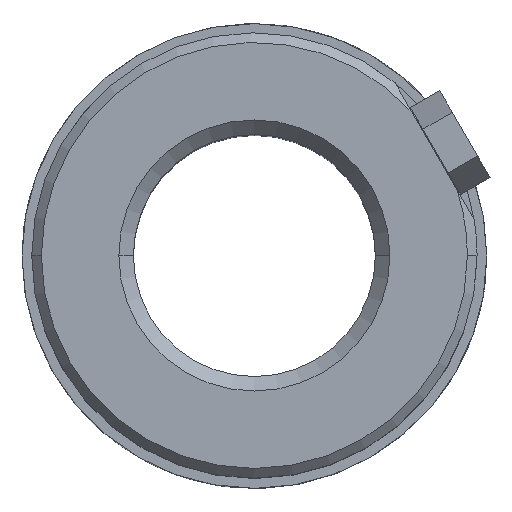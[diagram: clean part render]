
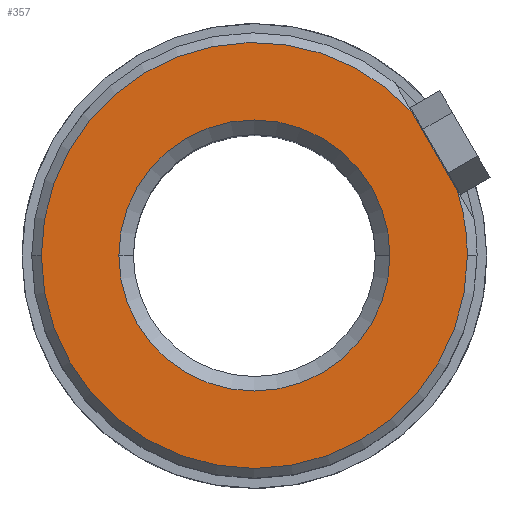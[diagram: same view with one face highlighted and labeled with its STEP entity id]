
A CAD part, top view. The second image highlights one B-rep face of the part: STEP entity #357.
In plain terms, the highlighted planar face has unit normal (0, 0, 1).
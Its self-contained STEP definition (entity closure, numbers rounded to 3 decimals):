
#230=CARTESIAN_POINT('Axis2P3D Location',(0.,0.,36.)) ;
#234=CARTESIAN_POINT('Vertex',(14.,0.,36.)) ;
#236=CARTESIAN_POINT('Vertex',(-14.,0.,36.)) ;
#309=CARTESIAN_POINT('Axis2P3D Location',(14.,0.,36.)) ;
#314=CARTESIAN_POINT('Line Origine',(18.62,10.75,36.)) ;
#318=CARTESIAN_POINT('Vertex',(20.951,6.711,36.)) ;
#320=CARTESIAN_POINT('Vertex',(16.288,14.789,36.)) ;
#323=CARTESIAN_POINT('Axis2P3D Location',(0.,0.,36.)) ;
#327=CARTESIAN_POINT('Vertex',(-22.,0.,36.)) ;
#330=CARTESIAN_POINT('Axis2P3D Location',(0.,0.,36.)) ;
#334=CARTESIAN_POINT('Vertex',(22.,0.,36.)) ;
#337=CARTESIAN_POINT('Axis2P3D Location',(0.,0.,36.)) ;
#348=CARTESIAN_POINT('Axis2P3D Location',(0.,0.,36.)) ;
#231=DIRECTION('Axis2P3D Direction',(0.,-0.,1.)) ;
#310=DIRECTION('Axis2P3D Direction',(0.,-0.,1.)) ;
#311=DIRECTION('Axis2P3D XDirection',(1.,0.,0.)) ;
#315=DIRECTION('Vector Direction',(-0.5,0.866,0.)) ;
#324=DIRECTION('Axis2P3D Direction',(0.,-0.,1.)) ;
#331=DIRECTION('Axis2P3D Direction',(0.,-0.,1.)) ;
#338=DIRECTION('Axis2P3D Direction',(0.,-0.,1.)) ;
#349=DIRECTION('Axis2P3D Direction',(0.,-0.,1.)) ;
#232=AXIS2_PLACEMENT_3D('Circle Axis2P3D',#230,#231,$) ;
#312=AXIS2_PLACEMENT_3D('Plane Axis2P3D',#309,#310,#311) ;
#325=AXIS2_PLACEMENT_3D('Circle Axis2P3D',#323,#324,$) ;
#332=AXIS2_PLACEMENT_3D('Circle Axis2P3D',#330,#331,$) ;
#339=AXIS2_PLACEMENT_3D('Circle Axis2P3D',#337,#338,$) ;
#350=AXIS2_PLACEMENT_3D('Circle Axis2P3D',#348,#349,$) ;
#343=ORIENTED_EDGE('',*,*,#322,.T.) ;
#344=ORIENTED_EDGE('',*,*,#329,.T.) ;
#345=ORIENTED_EDGE('',*,*,#336,.T.) ;
#346=ORIENTED_EDGE('',*,*,#341,.T.) ;
#354=ORIENTED_EDGE('',*,*,#352,.F.) ;
#355=ORIENTED_EDGE('',*,*,#238,.F.) ;
#356=FACE_BOUND('',#353,.T.) ;
#316=VECTOR('Line Direction',#315,1.) ;
#357=ADVANCED_FACE('741-25',(#347,#356),#313,.T.) ;
#233=CIRCLE('generated circle',#232,14.) ;
#326=CIRCLE('generated circle',#325,22.) ;
#333=CIRCLE('generated circle',#332,22.) ;
#340=CIRCLE('generated circle',#339,22.) ;
#351=CIRCLE('generated circle',#350,14.) ;
#238=EDGE_CURVE('',#235,#237,#233,.T.) ;
#322=EDGE_CURVE('',#319,#321,#317,.T.) ;
#329=EDGE_CURVE('',#321,#328,#326,.T.) ;
#336=EDGE_CURVE('',#328,#335,#333,.T.) ;
#341=EDGE_CURVE('',#335,#319,#340,.T.) ;
#352=EDGE_CURVE('',#237,#235,#351,.T.) ;
#342=EDGE_LOOP('',(#343,#344,#345,#346)) ;
#353=EDGE_LOOP('',(#354,#355)) ;
#347=FACE_OUTER_BOUND('',#342,.T.) ;
#317=LINE('Line',#314,#316) ;
#313=PLANE('Plane',#312) ;
#235=VERTEX_POINT('',#234) ;
#237=VERTEX_POINT('',#236) ;
#319=VERTEX_POINT('',#318) ;
#321=VERTEX_POINT('',#320) ;
#328=VERTEX_POINT('',#327) ;
#335=VERTEX_POINT('',#334) ;
